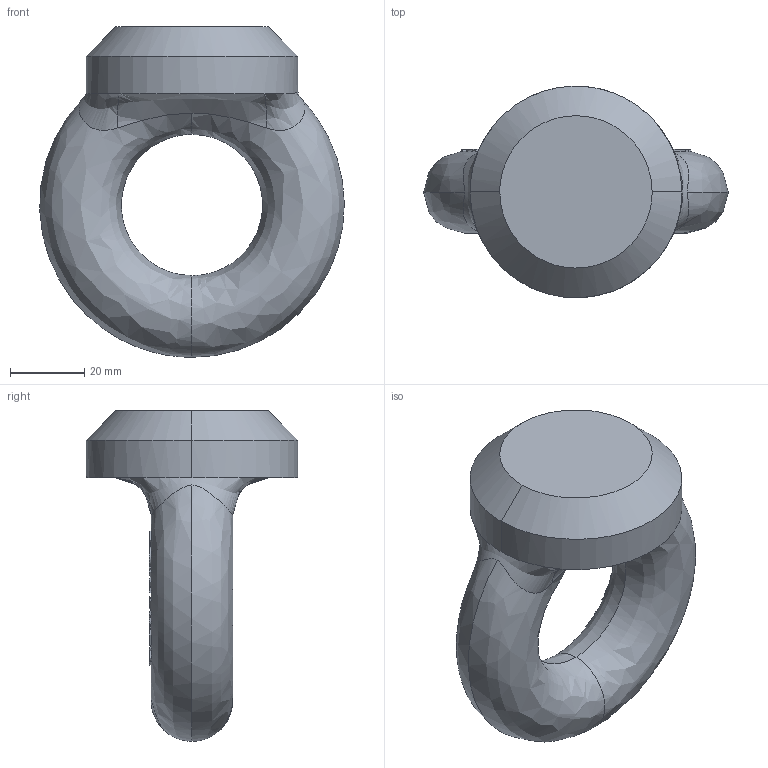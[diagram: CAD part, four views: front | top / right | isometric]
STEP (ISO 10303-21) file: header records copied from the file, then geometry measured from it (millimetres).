
FILE_DESCRIPTION (( 'STEP AP214' ), '1' );
FILE_NAME ('PELP250.STEP', '2024-02-09T21:10:48', ( '' ), ( '' ), 'SwSTEP 2.0', 'SolidWorks 2018', '' );
FILE_SCHEMA (( 'AUTOMOTIVE_DESIGN' ));
Length unit declared in the file: millimetre
Products named in the file (1): PELP250
Bounding box: 81.98 x 56.92 x 89 mm (x, y, z)
Volume: 107780.7 mm3; surface area: 17558 mm2
Topology: 1 solids, 1 shells, 210 faces, 624 edges, 435 vertices
Faces by surface type: bspline 210
Entity records: 16895 total; most frequent: CARTESIAN_POINT 13088, ORIENTED_EDGE 1248, EDGE_CURVE 624, B_SPLINE_CURVE_WITH_KNOTS 606, VERTEX_POINT 435, EDGE_LOOP 231, FACE_OUTER_BOUND 210, ADVANCED_FACE 210
